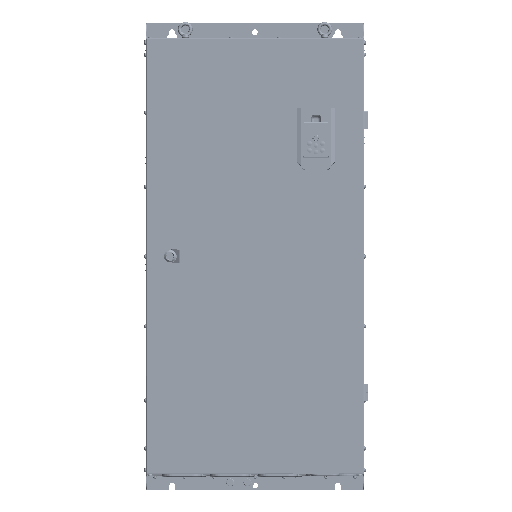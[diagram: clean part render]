
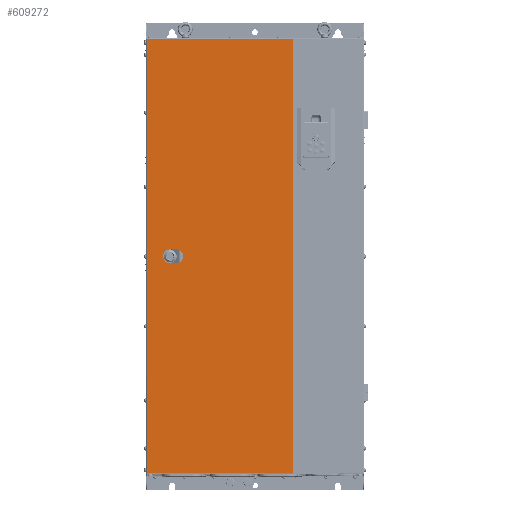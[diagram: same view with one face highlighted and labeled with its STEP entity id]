
A CAD part, top view. The second image highlights one B-rep face of the part: STEP entity #609272.
In plain terms, the highlighted planar face has unit normal (0, 0, 1).
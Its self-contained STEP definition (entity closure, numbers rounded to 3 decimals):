
#607283=DIRECTION('',(0.,-1.,0.));
#607284=VECTOR('',#607283,995.05);
#607285=CARTESIAN_POINT('',(-247.25,997.75,10.5));
#607286=LINE('',#607285,#607284);
#607653=DIRECTION('',(1.,0.,0.));
#607654=VECTOR('',#607653,334.25);
#607655=CARTESIAN_POINT('',(-247.25,2.7,10.5));
#607656=LINE('',#607655,#607654);
#607714=DIRECTION('',(1.,0.,0.));
#607715=VECTOR('',#607714,10.308);
#607716=CARTESIAN_POINT('',(-199.654,510.,10.5));
#607717=LINE('',#607716,#607715);
#607721=CARTESIAN_POINT('',(-194.5,500.,10.5));
#607722=DIRECTION('',(0.,0.,1.));
#607723=DIRECTION('',(-0.458,0.889,0.));
#607724=AXIS2_PLACEMENT_3D('',#607721,#607722,#607723);
#607729=DIRECTION('',(0.,1.,0.));
#607730=VECTOR('',#607729,10.308);
#607731=CARTESIAN_POINT('',(-204.5,494.846,10.5));
#607732=LINE('',#607731,#607730);
#607736=CARTESIAN_POINT('',(-194.5,500.,10.5));
#607737=DIRECTION('',(0.,0.,1.));
#607738=DIRECTION('',(-0.889,-0.458,0.));
#607739=AXIS2_PLACEMENT_3D('',#607736,#607737,#607738);
#607744=DIRECTION('',(-1.,0.,0.));
#607745=VECTOR('',#607744,10.308);
#607746=CARTESIAN_POINT('',(-189.346,490.,10.5));
#607747=LINE('',#607746,#607745);
#607751=CARTESIAN_POINT('',(-194.5,500.,10.5));
#607752=DIRECTION('',(0.,0.,1.));
#607753=DIRECTION('',(0.458,-0.889,0.));
#607754=AXIS2_PLACEMENT_3D('',#607751,#607752,#607753);
#607759=DIRECTION('',(0.,-1.,0.));
#607760=VECTOR('',#607759,10.308);
#607761=CARTESIAN_POINT('',(-184.5,505.154,10.5));
#607762=LINE('',#607761,#607760);
#607766=CARTESIAN_POINT('',(-194.5,500.,10.5));
#607767=DIRECTION('',(0.,0.,1.));
#607768=DIRECTION('',(0.889,0.458,0.));
#607769=AXIS2_PLACEMENT_3D('',#607766,#607767,#607768);
#607774=DIRECTION('',(0.,-1.,0.));
#607775=VECTOR('',#607774,995.05);
#607776=CARTESIAN_POINT('',(87.,997.75,10.5));
#607777=LINE('',#607776,#607775);
#607859=DIRECTION('',(1.,0.,0.));
#607860=VECTOR('',#607859,334.25);
#607861=CARTESIAN_POINT('',(-247.25,997.75,10.5));
#607862=LINE('',#607861,#607860);
#608607=CARTESIAN_POINT('',(-247.25,997.75,10.5));
#608608=CARTESIAN_POINT('',(-247.25,2.7,10.5));
#608609=VERTEX_POINT('',#608607);
#608610=VERTEX_POINT('',#608608);
#608720=CARTESIAN_POINT('',(-199.654,510.,10.5));
#608721=CARTESIAN_POINT('',(-189.346,510.,10.5));
#608722=VERTEX_POINT('',#608720);
#608723=VERTEX_POINT('',#608721);
#608724=CARTESIAN_POINT('',(-184.5,505.154,10.5));
#608725=VERTEX_POINT('',#608724);
#608726=CARTESIAN_POINT('',(-184.5,494.846,10.5));
#608727=VERTEX_POINT('',#608726);
#608728=CARTESIAN_POINT('',(-189.346,490.,10.5));
#608729=VERTEX_POINT('',#608728);
#608730=CARTESIAN_POINT('',(-199.654,490.,10.5));
#608731=VERTEX_POINT('',#608730);
#608732=CARTESIAN_POINT('',(-204.5,494.846,10.5));
#608733=VERTEX_POINT('',#608732);
#608734=CARTESIAN_POINT('',(-204.5,505.154,10.5));
#608735=VERTEX_POINT('',#608734);
#608752=CARTESIAN_POINT('',(87.,997.75,10.5));
#608753=CARTESIAN_POINT('',(87.,2.7,10.5));
#608754=VERTEX_POINT('',#608752);
#608755=VERTEX_POINT('',#608753);
#609242=CARTESIAN_POINT('',(-249.5,1000.,10.5));
#609243=DIRECTION('',(0.,0.,1.));
#609244=DIRECTION('',(0.,-1.,0.));
#609245=AXIS2_PLACEMENT_3D('',#609242,#609243,#609244);
#609246=PLANE('',#609245);
#609247=ORIENTED_EDGE('',*,*,#609233,.T.);
#609248=ORIENTED_EDGE('',*,*,#609172,.F.);
#609249=ORIENTED_EDGE('',*,*,#608924,.F.);
#609251=ORIENTED_EDGE('',*,*,#609250,.T.);
#609252=EDGE_LOOP('',(#609247,#609248,#609249,#609251));
#609253=FACE_OUTER_BOUND('',#609252,.F.);
#609255=ORIENTED_EDGE('',*,*,#609254,.F.);
#609257=ORIENTED_EDGE('',*,*,#609256,.T.);
#609259=ORIENTED_EDGE('',*,*,#609258,.F.);
#609261=ORIENTED_EDGE('',*,*,#609260,.T.);
#609263=ORIENTED_EDGE('',*,*,#609262,.F.);
#609265=ORIENTED_EDGE('',*,*,#609264,.T.);
#609267=ORIENTED_EDGE('',*,*,#609266,.F.);
#609269=ORIENTED_EDGE('',*,*,#609268,.T.);
#609270=EDGE_LOOP('',(#609255,#609257,#609259,#609261,#609263,#609265,#609267,
#609269));
#609271=FACE_BOUND('',#609270,.F.);
#609272=ADVANCED_FACE('',(#609253,#609271),#609246,.T.);
#607725=CIRCLE('',#607724,11.25);
#607740=CIRCLE('',#607739,11.25);
#607755=CIRCLE('',#607754,11.25);
#607770=CIRCLE('',#607769,11.25);
#608924=EDGE_CURVE('',#608609,#608610,#607286,.T.);
#609172=EDGE_CURVE('',#608610,#608755,#607656,.T.);
#609233=EDGE_CURVE('',#608754,#608755,#607777,.T.);
#609250=EDGE_CURVE('',#608609,#608754,#607862,.T.);
#609254=EDGE_CURVE('',#608722,#608723,#607717,.T.);
#609256=EDGE_CURVE('',#608722,#608735,#607725,.T.);
#609258=EDGE_CURVE('',#608733,#608735,#607732,.T.);
#609260=EDGE_CURVE('',#608733,#608731,#607740,.T.);
#609262=EDGE_CURVE('',#608729,#608731,#607747,.T.);
#609264=EDGE_CURVE('',#608729,#608727,#607755,.T.);
#609266=EDGE_CURVE('',#608725,#608727,#607762,.T.);
#609268=EDGE_CURVE('',#608725,#608723,#607770,.T.);
